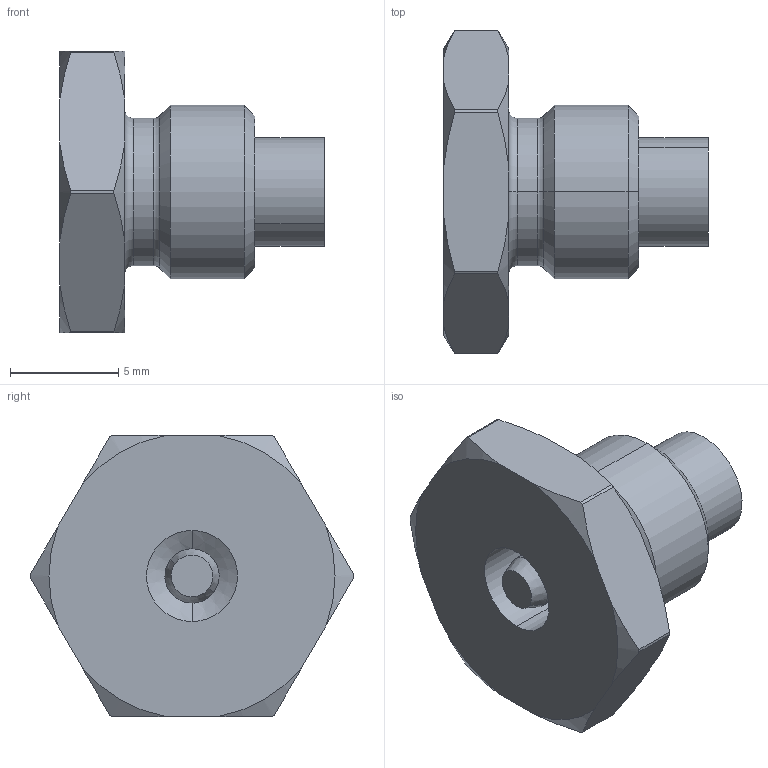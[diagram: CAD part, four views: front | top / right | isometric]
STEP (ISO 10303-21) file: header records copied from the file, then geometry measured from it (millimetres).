
FILE_DESCRIPTION (( 'STEP AP203' ), '1' );
FILE_NAME ('HB4,5.step', '2014-01-23T07:16:06', ( 'Wandfluh AG' ), ( 'Wandfluh AG' ), 'SwSTEP 2.0', 'SolidWorks 2012', '' );
FILE_SCHEMA (( 'CONFIG_CONTROL_DESIGN' ));
Length unit declared in the file: millimetre
Products named in the file (1): HB4,5
Bounding box: 12.2 x 14.93 x 13 mm (x, y, z)
Volume: 707.4 mm3; surface area: 1119.7 mm2
Topology: 4 solids, 4 shells, 99 faces, 234 edges, 148 vertices
Faces by surface type: cylinder 32, cone 20, plane 19, bspline 16, torus 12
Entity records: 3215 total; most frequent: CARTESIAN_POINT 882, DIRECTION 498, ORIENTED_EDGE 468, EDGE_CURVE 234, AXIS2_PLACEMENT_3D 220, VERTEX_POINT 148, CIRCLE 136, EDGE_LOOP 110
